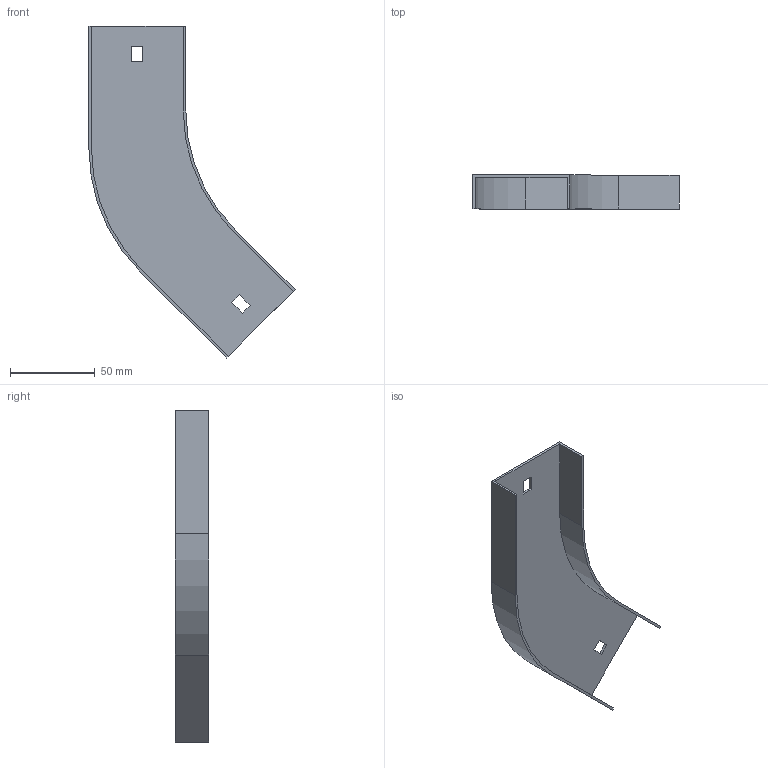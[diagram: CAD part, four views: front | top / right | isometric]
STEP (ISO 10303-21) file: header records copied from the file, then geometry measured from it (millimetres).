
FILE_DESCRIPTION (( 'STEP AP214' ), '1' );
FILE_NAME ('11N1R050.step', '2025-02-21T09:20:37', ( '' ), ( '' ), 'SwSTEP 2.0', 'SolidWorks 2023', '' );
FILE_SCHEMA (( 'AUTOMOTIVE_DESIGN' ));
Length unit declared in the file: millimetre
Products named in the file (1): 11N1R050
Bounding box: 121.21 x 20 x 195.31 mm (x, y, z)
Volume: 28501 mm3; surface area: 38979 mm2
Topology: 1 solids, 1 shells, 26 faces, 72 edges, 48 vertices
Faces by surface type: plane 22, cylinder 4
Entity records: 855 total; most frequent: CARTESIAN_POINT 147, ORIENTED_EDGE 144, DIRECTION 134, EDGE_CURVE 72, VECTOR 64, LINE 64, VERTEX_POINT 48, AXIS2_PLACEMENT_3D 35
